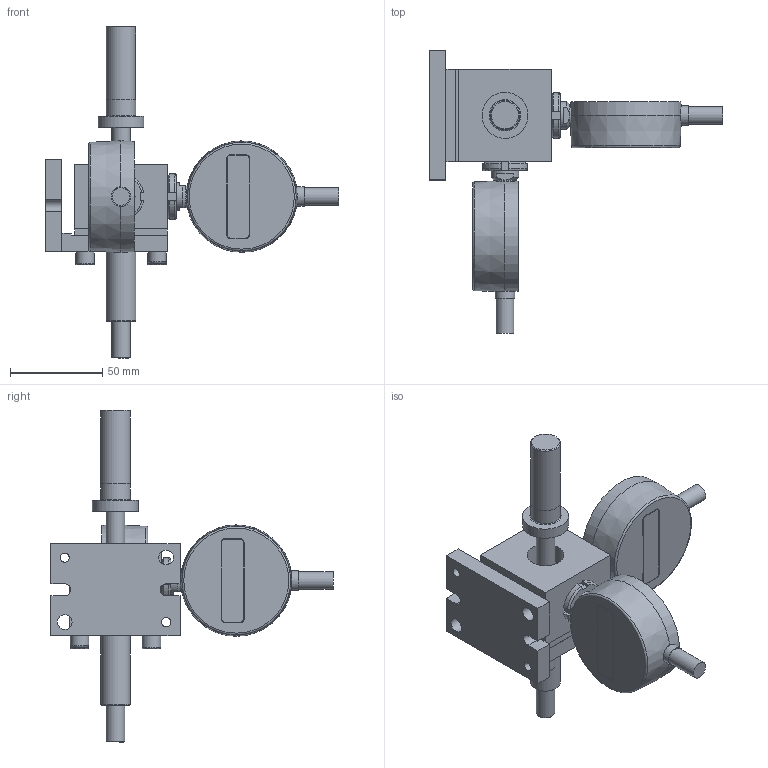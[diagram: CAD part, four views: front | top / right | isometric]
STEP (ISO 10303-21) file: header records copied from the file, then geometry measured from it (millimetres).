
FILE_DESCRIPTION(/* description */ (''),/* implementation_level */ '2;1');
FILE_NAME(/* name */ 'C:\Local Work Area\Progetti\AP\CALIBRI\10.00 COMP\10.00-COMP-B-SQ.stp',/* time_stamp */ '2020-11-02T17:06:31+01:00',/* author */ ('CAD5'),/* organization */ (''),/* preprocessor_version */ 'ST-DEVELOPER v17.2',/* originating_system */ 'Autodesk Inventor 2019',/* authorisation */ '');
FILE_SCHEMA (('AUTOMOTIVE_DESIGN { 1 0 10303 214 3 1 1 }'));
Length unit declared in the file: millimetre
Products named in the file (20): 10.00-COMP-tutto; 05.01; 05.01-a; 05.01-b; 10.00-COMP-A_assieme per SB; 10.01-A; 07.02; 07.11; UNI 5931 - M 6 x  25; 03.56; GHIERA M15x1 KM2; id-s-543-681B; id-s-543-681B_1; id-s-543-681B.parta; id-s-543-681B.partb; puntale 120042; 10.10; 10.03; 07.06; 10.11
Assembly tree (26 placements, depth 4):
  10.00-COMP-tutto
    05.01
      05.01-a
      05.01-b
    10.00-COMP-A_assieme per SB
      10.01-A
      07.02
      07.11
      UNI 5931 - M 6 x  25  x2
      03.56  x2
      GHIERA M15x1 KM2  x2
      id-s-543-681B
        id-s-543-681B.parta
        id-s-543-681B.partb
      puntale 120042  x2
      id-s-543-681B_1
        id-s-543-681B.parta
        id-s-543-681B.partb
      10.10
        10.03
        07.06
    10.11  x2
Bounding box: 159 x 153 x 180 mm (x, y, z)
Volume: 307377.5 mm3; surface area: 88655.6 mm2
Topology: 21 solids, 21 shells, 350 faces, 912 edges, 636 vertices
Faces by surface type: plane 174, cylinder 106, cone 51, torus 19
Full cylindrical faces by diameter (mm): 2.013 x2, 2.5 x2, 3 x2, 3.242 x1, 4.134 x2, 4.917 x6, 5 x6, 6 x5, 6.5 x2, 7 x2, 8 x14, 8.2 x4, 9.5 x2, 10 x8, 10.5 x2, 11 x1, 12 x2, 13.917 x3, 15 x4, 15.98 x1, 16 x2, 19 x1, 20 x1, 24 x1, 25 x2, 35 x1, 44 x1
Entity records: 8264 total; most frequent: CARTESIAN_POINT 1601, DIRECTION 1364, ORIENTED_EDGE 1172, EDGE_CURVE 586, AXIS2_PLACEMENT_3D 555, VERTEX_POINT 417, EDGE_LOOP 297, CIRCLE 283
